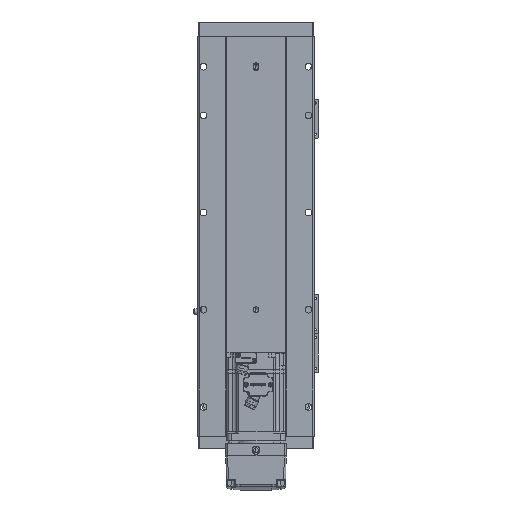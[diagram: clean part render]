
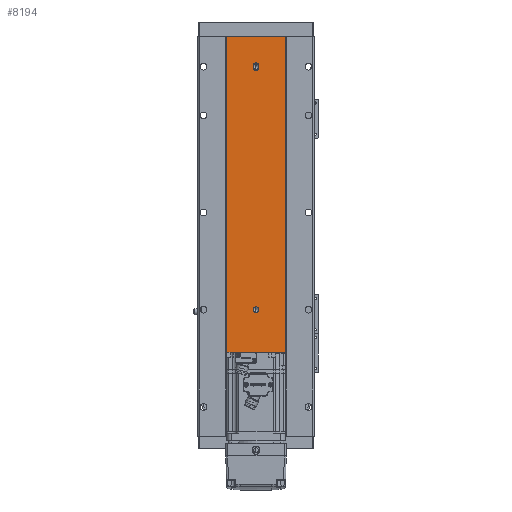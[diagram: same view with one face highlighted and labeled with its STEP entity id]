
A CAD part, front view. The second image highlights one B-rep face of the part: STEP entity #8194.
In plain terms, the highlighted planar face has unit normal (0, -1, 0).
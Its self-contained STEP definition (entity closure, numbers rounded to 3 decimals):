
#683 = CARTESIAN_POINT ( 'NONE',  ( 0., 1., 130. ) ) ;
#2477 = EDGE_LOOP ( 'NONE', ( #106373, #78164, #85788, #17504, #96233 ) ) ;
#3127 = EDGE_CURVE ( 'NONE', #84987, #53948, #71652, .T. ) ;
#3821 = CARTESIAN_POINT ( 'NONE',  ( -30., 1., 411. ) ) ;
#7408 = DIRECTION ( 'NONE',  ( 0., 0., -1. ) ) ;
#7578 = DIRECTION ( 'NONE',  ( 0., -1., 0. ) ) ;
#8024 = CARTESIAN_POINT ( 'NONE',  ( -30., 1., 411. ) ) ;
#8186 = ORIENTED_EDGE ( 'NONE', *, *, #63744, .F. ) ;
#8194 = ADVANCED_FACE ( 'NONE', ( #46396, #24831, #31590, #26141 ), #52879, .F. ) ;
#8307 = DIRECTION ( 'NONE',  ( 0., 0., -1. ) ) ;
#9139 = CARTESIAN_POINT ( 'NONE',  ( 0., 1., 133. ) ) ;
#11089 = CIRCLE ( 'NONE', #26261, 3. ) ;
#11400 = CARTESIAN_POINT ( 'NONE',  ( -30., 1., 0. ) ) ;
#11790 = LINE ( 'NONE', #82928, #60443 ) ;
#12134 = DIRECTION ( 'NONE',  ( 0., 0., -1. ) ) ;
#12505 = CARTESIAN_POINT ( 'NONE',  ( 0., 1., 381. ) ) ;
#13023 = CARTESIAN_POINT ( 'NONE',  ( -3., 1., 381. ) ) ;
#13389 = VERTEX_POINT ( 'NONE', #95295 ) ;
#17504 = ORIENTED_EDGE ( 'NONE', *, *, #3127, .F. ) ;
#17897 = LINE ( 'NONE', #8024, #104316 ) ;
#18101 = VECTOR ( 'NONE', #85098, 1000. ) ;
#18552 = CIRCLE ( 'NONE', #35335, 3. ) ;
#18998 = ORIENTED_EDGE ( 'NONE', *, *, #42880, .F. ) ;
#23766 = AXIS2_PLACEMENT_3D ( 'NONE', #39452, #46979, #107703 ) ;
#24831 = FACE_BOUND ( 'NONE', #71390, .T. ) ;
#25446 = EDGE_CURVE ( 'NONE', #39548, #34272, #11089, .T. ) ;
#25754 = DIRECTION ( 'NONE',  ( 1., 0., 0. ) ) ;
#26141 = FACE_OUTER_BOUND ( 'NONE', #76259, .T. ) ;
#26261 = AXIS2_PLACEMENT_3D ( 'NONE', #92931, #7578, #42304 ) ;
#26693 = DIRECTION ( 'NONE',  ( 0., 0., 1. ) ) ;
#26699 = ORIENTED_EDGE ( 'NONE', *, *, #90010, .F. ) ;
#28412 = VECTOR ( 'NONE', #64505, 1000. ) ;
#29824 = DIRECTION ( 'NONE',  ( 0., 1., 0. ) ) ;
#30656 = CARTESIAN_POINT ( 'NONE',  ( -3., 1., 379. ) ) ;
#30837 = AXIS2_PLACEMENT_3D ( 'NONE', #683, #70078, #77706 ) ;
#31187 = DIRECTION ( 'NONE',  ( 0., 0., 1. ) ) ;
#31590 = FACE_BOUND ( 'NONE', #64243, .T. ) ;
#32110 = CARTESIAN_POINT ( 'NONE',  ( -30., 1., 0. ) ) ;
#33393 = CIRCLE ( 'NONE', #100216, 3. ) ;
#33651 = ORIENTED_EDGE ( 'NONE', *, *, #48547, .F. ) ;
#33804 = LINE ( 'NONE', #99584, #28412 ) ;
#34272 = VERTEX_POINT ( 'NONE', #53859 ) ;
#35335 = AXIS2_PLACEMENT_3D ( 'NONE', #12505, #55171, #12134 ) ;
#36126 = VECTOR ( 'NONE', #87355, 1000. ) ;
#39452 = CARTESIAN_POINT ( 'NONE',  ( 0., 1., 130. ) ) ;
#39548 = VERTEX_POINT ( 'NONE', #95197 ) ;
#39661 = VERTEX_POINT ( 'NONE', #80499 ) ;
#41091 = CARTESIAN_POINT ( 'NONE',  ( 0., 1., 379. ) ) ;
#41473 = CIRCLE ( 'NONE', #30837, 3. ) ;
#41636 = CARTESIAN_POINT ( 'NONE',  ( 30., 1., 411. ) ) ;
#42124 = CARTESIAN_POINT ( 'NONE',  ( 0., 1., 379. ) ) ;
#42164 = CARTESIAN_POINT ( 'NONE',  ( 0., 1., 30. ) ) ;
#42304 = DIRECTION ( 'NONE',  ( 0., 0., -1. ) ) ;
#42838 = CIRCLE ( 'NONE', #103665, 3. ) ;
#42880 = EDGE_CURVE ( 'NONE', #34272, #39548, #33393, .T. ) ;
#43686 = EDGE_CURVE ( 'NONE', #70978, #39661, #59068, .T. ) ;
#44031 = VERTEX_POINT ( 'NONE', #108351 ) ;
#46396 = FACE_BOUND ( 'NONE', #2477, .T. ) ;
#46976 = CARTESIAN_POINT ( 'NONE',  ( 30., 1., 411. ) ) ;
#46979 = DIRECTION ( 'NONE',  ( 0., -1., 0. ) ) ;
#47215 = CARTESIAN_POINT ( 'NONE',  ( 3., 1., 379. ) ) ;
#48547 = EDGE_CURVE ( 'NONE', #81541, #39661, #51914, .T. ) ;
#49558 = EDGE_CURVE ( 'NONE', #95715, #81541, #17897, .T. ) ;
#51602 = DIRECTION ( 'NONE',  ( 0., 0., -1. ) ) ;
#51914 = LINE ( 'NONE', #41636, #18101 ) ;
#52879 = PLANE ( 'NONE',  #76209 ) ;
#53449 = EDGE_CURVE ( 'NONE', #75990, #44031, #11790, .T. ) ;
#53859 = CARTESIAN_POINT ( 'NONE',  ( 0., 1., 27. ) ) ;
#53948 = VERTEX_POINT ( 'NONE', #100738 ) ;
#55171 = DIRECTION ( 'NONE',  ( 0., -1., 0. ) ) ;
#59068 = LINE ( 'NONE', #11400, #36126 ) ;
#59175 = DIRECTION ( 'NONE',  ( 0., -1., 0. ) ) ;
#60428 = VERTEX_POINT ( 'NONE', #9139 ) ;
#60443 = VECTOR ( 'NONE', #31187, 1000. ) ;
#63744 = EDGE_CURVE ( 'NONE', #60428, #93695, #90592, .T. ) ;
#64243 = EDGE_LOOP ( 'NONE', ( #18998, #86958 ) ) ;
#64505 = DIRECTION ( 'NONE',  ( 0., 0., -1. ) ) ;
#66224 = VECTOR ( 'NONE', #8307, 1000. ) ;
#66915 = EDGE_CURVE ( 'NONE', #53948, #13389, #42838, .T. ) ;
#67797 = AXIS2_PLACEMENT_3D ( 'NONE', #41091, #59175, #101456 ) ;
#68590 = DIRECTION ( 'NONE',  ( 0., -1., 0. ) ) ;
#69116 = CARTESIAN_POINT ( 'NONE',  ( 0., 1., 127. ) ) ;
#69652 = CARTESIAN_POINT ( 'NONE',  ( -30., 1., 411. ) ) ;
#70078 = DIRECTION ( 'NONE',  ( 0., -1., 0. ) ) ;
#70978 = VERTEX_POINT ( 'NONE', #32110 ) ;
#71390 = EDGE_LOOP ( 'NONE', ( #26699, #8186 ) ) ;
#71652 = LINE ( 'NONE', #30656, #66224 ) ;
#75990 = VERTEX_POINT ( 'NONE', #47215 ) ;
#76209 = AXIS2_PLACEMENT_3D ( 'NONE', #3821, #29824, #26693 ) ;
#76259 = EDGE_LOOP ( 'NONE', ( #79893, #33651, #86665, #83378 ) ) ;
#77706 = DIRECTION ( 'NONE',  ( 0., 0., -1. ) ) ;
#78164 = ORIENTED_EDGE ( 'NONE', *, *, #111010, .F. ) ;
#79122 = EDGE_CURVE ( 'NONE', #44031, #84987, #18552, .T. ) ;
#79893 = ORIENTED_EDGE ( 'NONE', *, *, #43686, .T. ) ;
#80499 = CARTESIAN_POINT ( 'NONE',  ( 30., 1., 0. ) ) ;
#81541 = VERTEX_POINT ( 'NONE', #46976 ) ;
#82928 = CARTESIAN_POINT ( 'NONE',  ( 3., 1., 379. ) ) ;
#83378 = ORIENTED_EDGE ( 'NONE', *, *, #86829, .T. ) ;
#84830 = DIRECTION ( 'NONE',  ( 0., -1., 0. ) ) ;
#84987 = VERTEX_POINT ( 'NONE', #13023 ) ;
#85098 = DIRECTION ( 'NONE',  ( 0., 0., -1. ) ) ;
#85788 = ORIENTED_EDGE ( 'NONE', *, *, #66915, .F. ) ;
#86665 = ORIENTED_EDGE ( 'NONE', *, *, #49558, .F. ) ;
#86829 = EDGE_CURVE ( 'NONE', #95715, #70978, #33804, .T. ) ;
#86958 = ORIENTED_EDGE ( 'NONE', *, *, #25446, .F. ) ;
#87355 = DIRECTION ( 'NONE',  ( 1., 0., 0. ) ) ;
#90010 = EDGE_CURVE ( 'NONE', #93695, #60428, #41473, .T. ) ;
#90592 = CIRCLE ( 'NONE', #23766, 3. ) ;
#92931 = CARTESIAN_POINT ( 'NONE',  ( 0., 1., 30. ) ) ;
#93695 = VERTEX_POINT ( 'NONE', #69116 ) ;
#95197 = CARTESIAN_POINT ( 'NONE',  ( 0., 1., 33. ) ) ;
#95295 = CARTESIAN_POINT ( 'NONE',  ( 0., 1., 376. ) ) ;
#95715 = VERTEX_POINT ( 'NONE', #69652 ) ;
#96233 = ORIENTED_EDGE ( 'NONE', *, *, #79122, .F. ) ;
#99584 = CARTESIAN_POINT ( 'NONE',  ( -30., 1., 411. ) ) ;
#100216 = AXIS2_PLACEMENT_3D ( 'NONE', #42164, #68590, #51602 ) ;
#100738 = CARTESIAN_POINT ( 'NONE',  ( -3., 1., 379. ) ) ;
#101456 = DIRECTION ( 'NONE',  ( 0., 0., -1. ) ) ;
#103665 = AXIS2_PLACEMENT_3D ( 'NONE', #42124, #84830, #7408 ) ;
#104316 = VECTOR ( 'NONE', #25754, 1000. ) ;
#105131 = CIRCLE ( 'NONE', #67797, 3. ) ;
#106373 = ORIENTED_EDGE ( 'NONE', *, *, #53449, .F. ) ;
#107703 = DIRECTION ( 'NONE',  ( 0., 0., -1. ) ) ;
#108351 = CARTESIAN_POINT ( 'NONE',  ( 3., 1., 381. ) ) ;
#111010 = EDGE_CURVE ( 'NONE', #13389, #75990, #105131, .T. ) ;
